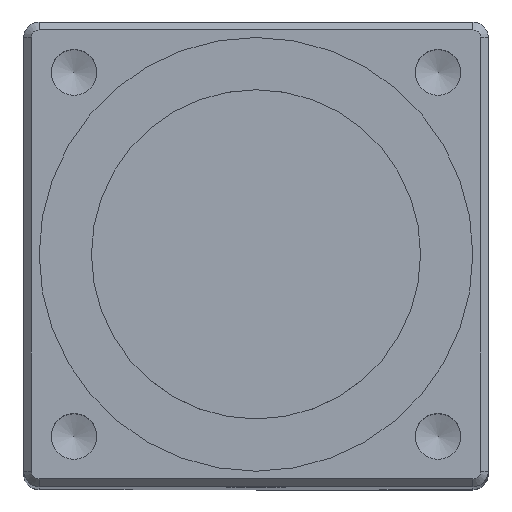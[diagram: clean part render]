
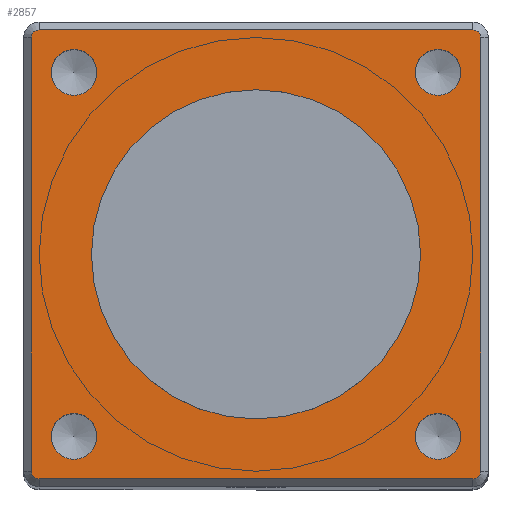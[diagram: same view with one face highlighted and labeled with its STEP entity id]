
A CAD part, top view. The second image highlights one B-rep face of the part: STEP entity #2857.
In plain terms, the highlighted planar face has unit normal (0, 0, 1).
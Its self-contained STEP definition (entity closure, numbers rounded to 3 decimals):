
#183=FACE_BOUND('',#533,.T.);
#184=FACE_BOUND('',#534,.T.);
#185=FACE_BOUND('',#535,.T.);
#186=FACE_BOUND('',#536,.T.);
#187=FACE_BOUND('',#537,.T.);
#239=PLANE('',#3206);
#357=FACE_OUTER_BOUND('',#532,.T.);
#532=EDGE_LOOP('',(#2175,#2176,#2177,#2178,#2179,#2180,#2181,#2182));
#533=EDGE_LOOP('',(#2183));
#534=EDGE_LOOP('',(#2184));
#535=EDGE_LOOP('',(#2185));
#536=EDGE_LOOP('',(#2186));
#537=EDGE_LOOP('',(#2187));
#822=LINE('',#4761,#1009);
#827=LINE('',#4773,#1014);
#830=LINE('',#4781,#1017);
#833=LINE('',#4790,#1020);
#1009=VECTOR('',#3625,10.);
#1014=VECTOR('',#3638,10.);
#1017=VECTOR('',#3647,10.);
#1020=VECTOR('',#3656,10.);
#1139=CIRCLE('',#3109,0.592);
#1141=CIRCLE('',#3113,0.592);
#1143=CIRCLE('',#3117,0.592);
#1145=CIRCLE('',#3121,0.592);
#1183=CIRCLE('',#3189,0.2);
#1184=CIRCLE('',#3192,0.2);
#1185=CIRCLE('',#3195,0.2);
#1187=CIRCLE('',#3199,0.2);
#1192=CIRCLE('',#3207,4.25);
#1268=VERTEX_POINT('',#4218);
#1271=VERTEX_POINT('',#4227);
#1274=VERTEX_POINT('',#4236);
#1277=VERTEX_POINT('',#4245);
#1354=VERTEX_POINT('',#4758);
#1355=VERTEX_POINT('',#4760);
#1357=VERTEX_POINT('',#4767);
#1358=VERTEX_POINT('',#4771);
#1359=VERTEX_POINT('',#4775);
#1360=VERTEX_POINT('',#4779);
#1361=VERTEX_POINT('',#4783);
#1363=VERTEX_POINT('',#4788);
#1368=VERTEX_POINT('',#4809);
#1541=EDGE_CURVE('',#1268,#1268,#1139,.T.);
#1545=EDGE_CURVE('',#1271,#1271,#1141,.T.);
#1549=EDGE_CURVE('',#1274,#1274,#1143,.T.);
#1553=EDGE_CURVE('',#1277,#1277,#1145,.T.);
#1657=EDGE_CURVE('',#1354,#1355,#822,.T.);
#1662=EDGE_CURVE('',#1357,#1354,#1183,.T.);
#1664=EDGE_CURVE('',#1358,#1357,#827,.T.);
#1666=EDGE_CURVE('',#1359,#1358,#1184,.T.);
#1668=EDGE_CURVE('',#1360,#1359,#830,.T.);
#1670=EDGE_CURVE('',#1361,#1360,#1185,.T.);
#1672=EDGE_CURVE('',#1363,#1361,#833,.T.);
#1675=EDGE_CURVE('',#1355,#1363,#1187,.T.);
#1683=EDGE_CURVE('',#1368,#1368,#1192,.T.);
#2175=ORIENTED_EDGE('',*,*,#1657,.F.);
#2176=ORIENTED_EDGE('',*,*,#1662,.F.);
#2177=ORIENTED_EDGE('',*,*,#1664,.F.);
#2178=ORIENTED_EDGE('',*,*,#1666,.F.);
#2179=ORIENTED_EDGE('',*,*,#1668,.F.);
#2180=ORIENTED_EDGE('',*,*,#1670,.F.);
#2181=ORIENTED_EDGE('',*,*,#1672,.F.);
#2182=ORIENTED_EDGE('',*,*,#1675,.F.);
#2183=ORIENTED_EDGE('',*,*,#1541,.T.);
#2184=ORIENTED_EDGE('',*,*,#1545,.T.);
#2185=ORIENTED_EDGE('',*,*,#1549,.T.);
#2186=ORIENTED_EDGE('',*,*,#1553,.T.);
#2187=ORIENTED_EDGE('',*,*,#1683,.T.);
#2857=ADVANCED_FACE('',(#357,#183,#184,#185,#186,#187),#239,.T.);
#3109=AXIS2_PLACEMENT_3D('',#4219,#3412,#3413);
#3113=AXIS2_PLACEMENT_3D('',#4228,#3422,#3423);
#3117=AXIS2_PLACEMENT_3D('',#4237,#3432,#3433);
#3121=AXIS2_PLACEMENT_3D('',#4246,#3442,#3443);
#3189=AXIS2_PLACEMENT_3D('',#4769,#3633,#3634);
#3192=AXIS2_PLACEMENT_3D('',#4777,#3642,#3643);
#3195=AXIS2_PLACEMENT_3D('',#4785,#3651,#3652);
#3199=AXIS2_PLACEMENT_3D('',#4794,#3662,#3663);
#3206=AXIS2_PLACEMENT_3D('',#4808,#3679,#3680);
#3207=AXIS2_PLACEMENT_3D('',#4810,#3681,#3682);
#3412=DIRECTION('center_axis',(0.,0.,-1.));
#3413=DIRECTION('ref_axis',(1.,0.,0.));
#3422=DIRECTION('center_axis',(0.,0.,-1.));
#3423=DIRECTION('ref_axis',(1.,0.,0.));
#3432=DIRECTION('center_axis',(0.,0.,-1.));
#3433=DIRECTION('ref_axis',(1.,0.,0.));
#3442=DIRECTION('center_axis',(0.,0.,-1.));
#3443=DIRECTION('ref_axis',(1.,0.,0.));
#3625=DIRECTION('',(1.,0.,0.));
#3633=DIRECTION('center_axis',(0.,0.,-1.));
#3634=DIRECTION('ref_axis',(-0.707,0.707,0.));
#3638=DIRECTION('',(0.,1.,0.));
#3642=DIRECTION('center_axis',(0.,0.,-1.));
#3643=DIRECTION('ref_axis',(-0.707,-0.707,0.));
#3647=DIRECTION('',(-1.,0.,0.));
#3651=DIRECTION('center_axis',(0.,0.,-1.));
#3652=DIRECTION('ref_axis',(0.707,-0.707,0.));
#3656=DIRECTION('',(0.,-1.,0.));
#3662=DIRECTION('center_axis',(0.,0.,-1.));
#3663=DIRECTION('ref_axis',(0.707,0.707,0.));
#3679=DIRECTION('center_axis',(0.,0.,1.));
#3680=DIRECTION('ref_axis',(1.,0.,0.));
#3681=DIRECTION('center_axis',(0.,0.,-1.));
#3682=DIRECTION('ref_axis',(-1.,0.,0.));
#4218=CARTESIAN_POINT('',(4.108,4.7,49.));
#4219=CARTESIAN_POINT('Origin',(4.7,4.7,49.));
#4227=CARTESIAN_POINT('',(-5.292,4.7,49.));
#4228=CARTESIAN_POINT('Origin',(-4.7,4.7,49.));
#4236=CARTESIAN_POINT('',(-5.292,-4.7,49.));
#4237=CARTESIAN_POINT('Origin',(-4.7,-4.7,49.));
#4245=CARTESIAN_POINT('',(4.108,-4.7,49.));
#4246=CARTESIAN_POINT('Origin',(4.7,-4.7,49.));
#4758=CARTESIAN_POINT('',(-5.6,5.8,49.));
#4760=CARTESIAN_POINT('',(5.6,5.8,49.));
#4761=CARTESIAN_POINT('',(3.,5.8,49.));
#4767=CARTESIAN_POINT('',(-5.8,5.6,49.));
#4769=CARTESIAN_POINT('Origin',(-5.6,5.6,49.));
#4771=CARTESIAN_POINT('',(-5.8,-5.6,49.));
#4773=CARTESIAN_POINT('',(-5.8,3.,49.));
#4775=CARTESIAN_POINT('',(-5.6,-5.8,49.));
#4777=CARTESIAN_POINT('Origin',(-5.6,-5.6,49.));
#4779=CARTESIAN_POINT('',(5.6,-5.8,49.));
#4781=CARTESIAN_POINT('',(-3.,-5.8,49.));
#4783=CARTESIAN_POINT('',(5.8,-5.6,49.));
#4785=CARTESIAN_POINT('Origin',(5.6,-5.6,49.));
#4788=CARTESIAN_POINT('',(5.8,5.6,49.));
#4790=CARTESIAN_POINT('',(5.8,-3.,49.));
#4794=CARTESIAN_POINT('Origin',(5.6,5.6,49.));
#4808=CARTESIAN_POINT('Origin',(0.,0.,
49.));
#4809=CARTESIAN_POINT('',(4.25,0.,49.));
#4810=CARTESIAN_POINT('Origin',(0.,0.,49.));
